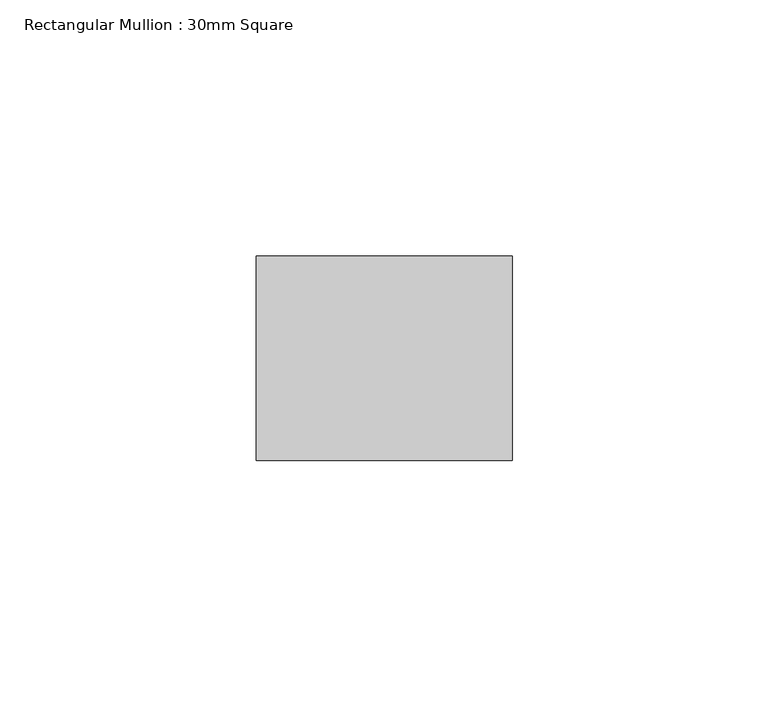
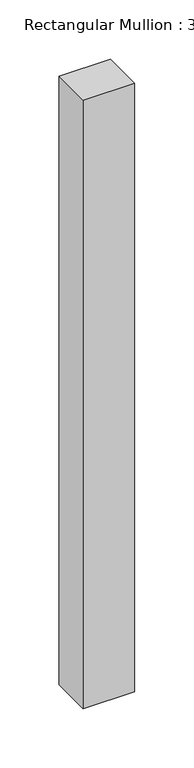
"""IFC4 building model written with IfcOpenShell, lengths in millimetres: member geometry, Rectangular Mullion : 30mm Square."""

from ifc_helpers import new_model, si_unit, frame, origin, place, context, project, spatial, polyline, outline, extrude, source, transform, mapped, element, save


def rectangular_mullion_30mm_square_18d3f6a5(model_context):
    return source(origin(), model_context, "Body", "SweptSolid", [
        extrude(outline(polyline([(25.0, 20.0), (25.0, -20.0), (-25.0, -20.0), (-25.0, 20.0), (25.0, 20.0)])), frame((0.0, 0.0, -625.0), z_axis=(0.0, 0.0, 1.0), x_axis=(1.0, 0.0, 0.0)), (0.0, 0.0, 1.0), 625.0),
    ])


if __name__ == "__main__":
    model = new_model("IFC4")
    model_context = context("Model", 3, world=origin())
    ifc_project = project(units=[si_unit("LENGTHUNIT", "METRE", prefix="MILLI")], contexts=[model_context])
    site = spatial("IfcSite", under=ifc_project)
    building = spatial("IfcBuilding", under=site)
    placement = place(None, origin())
    rectangular_mullion_30mm_square_shape = rectangular_mullion_30mm_square_18d3f6a5(model_context)
    element("IfcMember", 1, ObjectType="Rectangular Mullion : 30mm Square", at=placement, inside=building, context=model_context, shape_type="MappedRepresentation", body=[
        mapped(rectangular_mullion_30mm_square_shape, transform((0.0, 0.0, 0.0), x_axis=(1.0, 0.0, 0.0), y_axis=(0.0, 1.0, 0.0), z_axis=(0.0, 0.0, 1.0))),
    ])
    save(model, "model.ifc")
